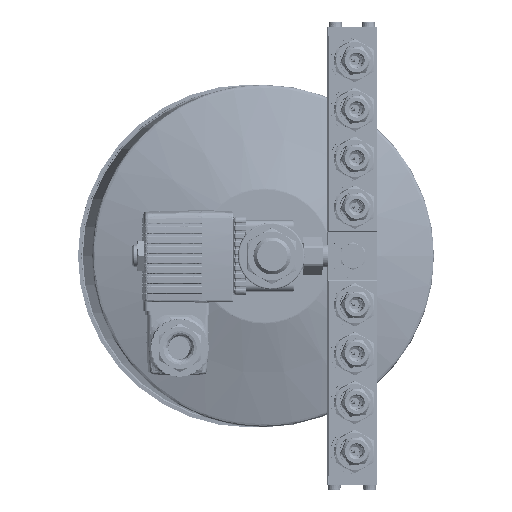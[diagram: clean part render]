
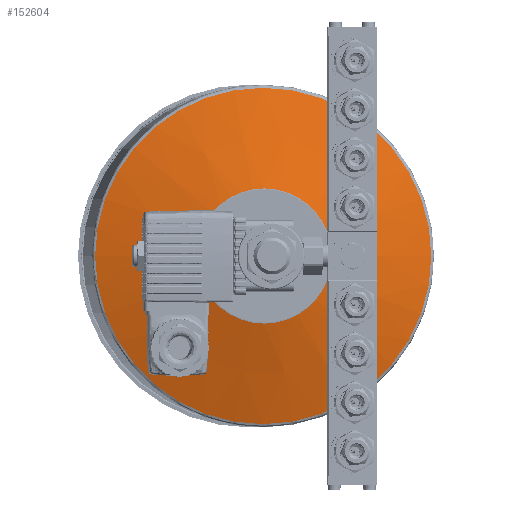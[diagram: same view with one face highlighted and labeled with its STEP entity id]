
A CAD part, left-side view. The second image highlights one B-rep face of the part: STEP entity #152604.
In plain terms, the highlighted conical face has half-angle 73.997 degrees and reference radius 75.769 mm.
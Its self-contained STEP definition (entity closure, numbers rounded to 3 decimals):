
#14005 = CARTESIAN_POINT ( 'NONE',  ( 73.466, 0., 0. ) ) ;
#18717 = VERTEX_POINT ( 'NONE', #314911 ) ;
#28561 = EDGE_CURVE ( 'NONE', #51595, #51595, #175949, .T. ) ;
#44933 = DIRECTION ( 'NONE',  ( 1., 0., 0. ) ) ;
#46520 = FACE_OUTER_BOUND ( 'NONE', #79475, .T. ) ;
#51595 = VERTEX_POINT ( 'NONE', #250792 ) ;
#72400 = CARTESIAN_POINT ( 'NONE',  ( 86.458, 0., 0. ) ) ;
#79475 = EDGE_LOOP ( 'NONE', ( #102066 ) ) ;
#86267 = CONICAL_SURFACE ( 'NONE', #112057, 75.769, 1.291 ) ;
#90291 = DIRECTION ( 'NONE',  ( 0., -1., 0. ) ) ;
#97399 = CARTESIAN_POINT ( 'NONE',  ( 86.458, 0., 0. ) ) ;
#102066 = ORIENTED_EDGE ( 'NONE', *, *, #243632, .T. ) ;
#112057 = AXIS2_PLACEMENT_3D ( 'NONE', #72400, #44933, #145219 ) ;
#135856 = ORIENTED_EDGE ( 'NONE', *, *, #28561, .T. ) ;
#145056 = AXIS2_PLACEMENT_3D ( 'NONE', #14005, #230970, #279500 ) ;
#145219 = DIRECTION ( 'NONE',  ( 0., 0., -1. ) ) ;
#152604 = ADVANCED_FACE ( 'NONE', ( #46520, #175842 ), #86267, .T. ) ;
#175842 = FACE_BOUND ( 'NONE', #184305, .T. ) ;
#175949 = CIRCLE ( 'NONE', #145056, 30.469 ) ;
#184305 = EDGE_LOOP ( 'NONE', ( #135856 ) ) ;
#196135 = DIRECTION ( 'NONE',  ( -1., 0., 0. ) ) ;
#230970 = DIRECTION ( 'NONE',  ( 1., 0., 0. ) ) ;
#243632 = EDGE_CURVE ( 'NONE', #18717, #18717, #281592, .T. ) ;
#250792 = CARTESIAN_POINT ( 'NONE',  ( 73.466, -30.469, 0. ) ) ;
#276546 = AXIS2_PLACEMENT_3D ( 'NONE', #97399, #196135, #90291 ) ;
#279500 = DIRECTION ( 'NONE',  ( 0., -1., 0. ) ) ;
#281592 = CIRCLE ( 'NONE', #276546, 75.769 ) ;
#314911 = CARTESIAN_POINT ( 'NONE',  ( 86.458, -75.769, 0. ) ) ;
